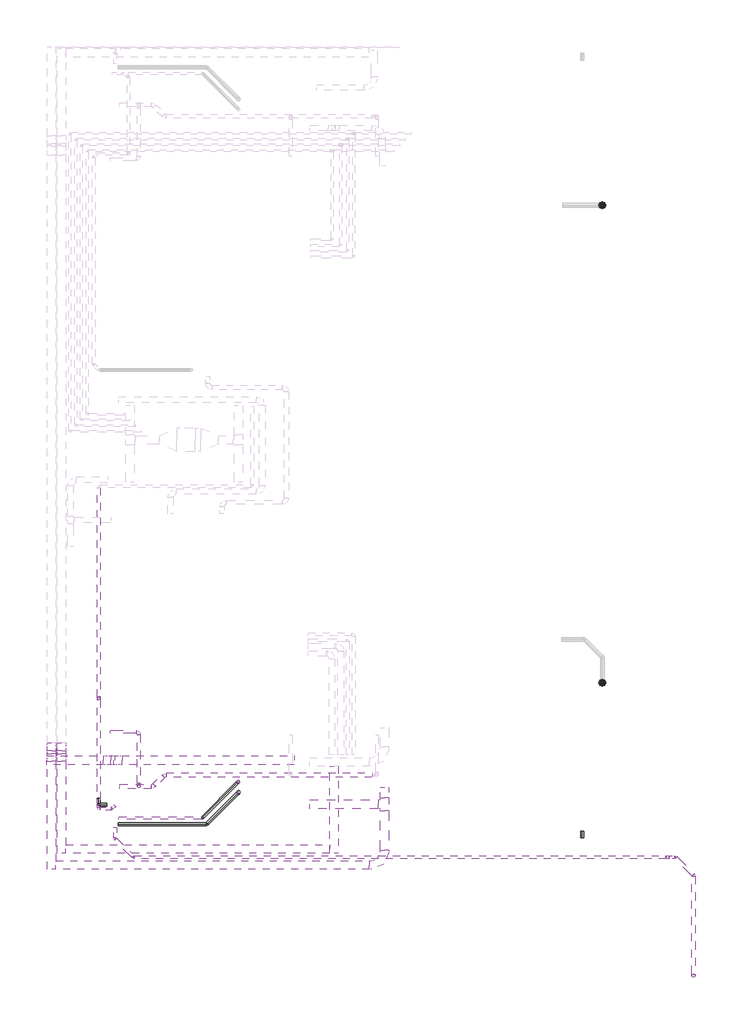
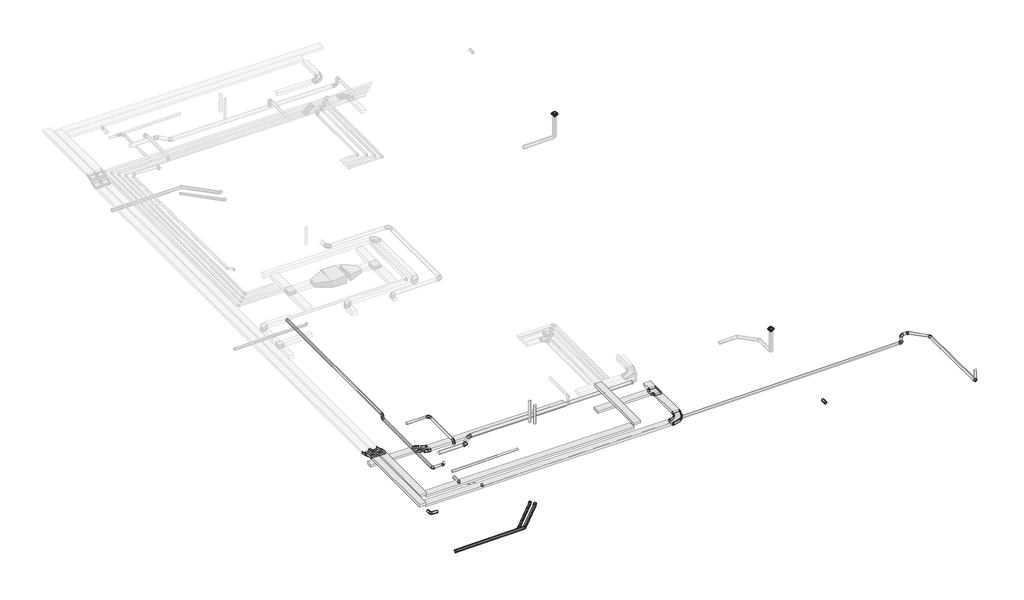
# One storey, part 1 of 4: 22 pipe segments, 16 pipe fittings, 13 cable carrier segments, 8 cable carrier fittings, 6 duct segments, 4 duct fittings, 2 flow terminals.
"""IFC4 building model written with IfcOpenShell, lengths in millimetres."""

from ifc_helpers import new_model, si_unit, point, frame, frame_2d, origin, place, context, project, spatial, polyline, circle_curve, trimmed, segment, composite_curve, outline, extrude, transform, mapped, element, save
from components import el_radio_300_mm_312ed4b1, m_codo_horizontal_de_canal_el_5b0e7b07, m_codo_vertical_exterior_de_canal_el_547dc688, m_codo_vertical_interior_de_canal_el_a775c4ca, m_codo_redondo_ext_1_d_96ea52f9, m_codo_redondo_ext_1_d_5003ae0d, flow_terminal_39898e6f, flow_terminal_561f22d3, pipe_fitting_0b7fd5a4, pipe_fitting_aab77541, pipe_fitting_688cd524, pipe_fitting_d4e63a53, pipe_fitting_0af9fee6, pipe_fitting_39727cd3, pipe_fitting_87aeffad, pipe_fitting_4a6b8cfe

model = new_model("IFC4")

# Units and contexts
model_context = context("Model", 3, world=origin())
ifc_project = project(units=[si_unit("LENGTHUNIT", "METRE", prefix="MILLI")], contexts=[model_context])

# Site, building, storey
site = spatial("IfcSite", under=ifc_project)
building = spatial("IfcBuilding", under=site)
storey = spatial("IfcBuildingStorey", under=building, Name="Nivell 05 P05_PP", Elevation=26160.0)

# Cable carrier fittings
placement = place(None, origin())
el_radio_300_mm_shape = el_radio_300_mm_312ed4b1(model_context)
element("IfcCableCarrierFitting", 1, ObjectType="M_Te horizontal de canal : EL_Radio 300 mm", at=placement, inside=storey, context=model_context, shape_type="MappedRepresentation", body=[
    mapped(el_radio_300_mm_shape, transform((16614.6624278, -16993.7433657, 29324.0212739), x_axis=(0.0, -1.0, 0.0), y_axis=(1.0, 0.0, 0.0), z_axis=(0.0, 0.0, 1.0))),
])
m_codo_horizontal_de_canal_el_shape = m_codo_horizontal_de_canal_el_5b0e7b07(model_context)
element("IfcCableCarrierFitting", 2, ObjectType="M_Codo horizontal de canal : EL", at=placement, inside=storey, context=model_context, shape_type="MappedRepresentation", body=[
    mapped(m_codo_horizontal_de_canal_el_shape, transform((16614.6624278, -19116.2171768, 29324.0212739), x_axis=(1.0, 0.0, 0.0), y_axis=(0.0, 1.0, 0.0), z_axis=(0.0, 0.0, 1.0))),
])
m_codo_vertical_exterior_de_canal_el_shape = m_codo_vertical_exterior_de_canal_el_547dc688(model_context)
element("IfcCableCarrierFitting", 3, ObjectType="M_Codo vertical exterior de canal : EL", at=placement, inside=storey, context=model_context, shape_type="MappedRepresentation", body=[
    mapped(m_codo_vertical_exterior_de_canal_el_shape, transform((5357.0671065, -15355.3999814, 29410.0), x_axis=(0.0, 1.0, 0.0), y_axis=(0.0, 0.0, -1.0), z_axis=(-1.0, 0.0, 0.0))),
])
element("IfcCableCarrierFitting", 4, ObjectType="M_Codo vertical exterior de canal : EL", at=placement, inside=storey, context=model_context, shape_type="MappedRepresentation", body=[
    mapped(m_codo_vertical_exterior_de_canal_el_shape, transform((5008.2381883, -15355.3999814, 29410.0), x_axis=(0.0, -0.9238795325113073, 0.38268343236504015), y_axis=(0.0, -0.38268343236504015, -0.9238795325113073), z_axis=(1.0, 0.0, 0.0))),
])
element("IfcCableCarrierFitting", 5, ObjectType="M_Codo vertical exterior de canal : EL", at=placement, inside=storey, context=model_context, shape_type="MappedRepresentation", body=[
    mapped(m_codo_vertical_exterior_de_canal_el_shape, transform((6956.7785309, -15459.2996833, 29060.0), x_axis=(1.0, 0.0, 0.0), y_axis=(0.0, 0.0, -1.0), z_axis=(0.0, 1.0, 0.0))),
])
m_codo_vertical_interior_de_canal_el_shape = m_codo_vertical_interior_de_canal_el_a775c4ca(model_context)
element("IfcCableCarrierFitting", 6, ObjectType="M_Codo vertical interior de canal : EL", at=placement, inside=storey, context=model_context, shape_type="MappedRepresentation", body=[
    mapped(m_codo_vertical_interior_de_canal_el_shape, transform((5357.0671065, -14993.267947, 29260.0), x_axis=(0.0, 0.9238795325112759, -0.38268343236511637), y_axis=(0.0, 0.38268343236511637, 0.9238795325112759), z_axis=(1.0, 0.0, 0.0))),
])
element("IfcCableCarrierFitting", 7, ObjectType="M_Codo vertical interior de canal : EL", at=placement, inside=storey, context=model_context, shape_type="MappedRepresentation", body=[
    mapped(m_codo_vertical_interior_de_canal_el_shape, transform((5008.2381883, -14993.267947, 29260.0), x_axis=(0.0, -1.0, 0.0), y_axis=(0.0, 0.0, 1.0), z_axis=(-1.0, 0.0, 0.0))),
])
element("IfcCableCarrierFitting", 8, ObjectType="M_Codo vertical interior de canal : EL", at=placement, inside=storey, context=model_context, shape_type="MappedRepresentation", body=[
    mapped(m_codo_vertical_interior_de_canal_el_shape, transform((7318.9105653, -15459.2996833, 28910.0), x_axis=(0.9238795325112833, 0.0, -0.38268343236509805), y_axis=(0.38268343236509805, 0.0, 0.9238795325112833), z_axis=(0.0, -1.0, 0.0))),
])

# Cable carrier segments
element("IfcCableCarrierSegment", 9, ObjectType="EL", at=placement, inside=storey, context=model_context, shape_type="SweptSolid", body=[
    extrude(outline(polyline([(16464.6624278, -17219.7433657), (16764.6624278, -17219.7433657), (16764.6624278, -18591.2171768), (16464.6624278, -18591.2171768), (16464.6624278, -17219.7433657)])), frame((0.0, 0.0, 29274.0212739), z_axis=(0.0, 0.0, 1.0), x_axis=(1.0, 0.0, 0.0)), (0.0, 0.0, 1.0), 100.0),
])
element("IfcCableCarrierSegment", 10, ObjectType="EL", at=placement, inside=storey, context=model_context, shape_type="SweptSolid", body=[
    extrude(outline(polyline([(16089.6624278, -18966.2171768), (16089.6624278, -19266.2171768), (5158.2381883, -19266.2171768), (5158.2381883, -18966.2171768), (16089.6624278, -18966.2171768)])), frame((0.0, 0.0, 29274.0212739), z_axis=(0.0, 0.0, 1.0), x_axis=(1.0, 0.0, 0.0)), (0.0, 0.0, 1.0), 100.0),
])
element("IfcCableCarrierSegment", 11, ObjectType="EL", at=placement, inside=storey, context=model_context, shape_type="SweptSolid", body=[
    extrude(outline(polyline([(16464.6624278, -16393.7433657), (16764.6624278, -16393.7433657), (16764.6624278, -16767.7433657), (16464.6624278, -16767.7433657), (16464.6624278, -16393.7433657)])), frame((0.0, 0.0, 29274.0212739), z_axis=(0.0, 0.0, 1.0), x_axis=(1.0, 0.0, 0.0)), (0.0, 0.0, 1.0), 100.0),
])
element("IfcCableCarrierSegment", 12, ObjectType="EL", at=placement, inside=storey, context=model_context, shape_type="SweptSolid", body=[
    extrude(outline(polyline([(16388.6624278, -16843.7433657), (16388.6624278, -17143.7433657), (14011.0671065, -17143.7433657), (14011.0671065, -16843.7433657), (16388.6624278, -16843.7433657)])), frame((0.0, 0.0, 29274.0212739), z_axis=(0.0, 0.0, 1.0), x_axis=(1.0, 0.0, 0.0)), (0.0, 0.0, 1.0), 100.0),
])
element("IfcCableCarrierSegment", 13, ObjectType="EL", at=placement, inside=storey, context=model_context, shape_type="SweptSolid", body=[
    extrude(outline(polyline([(6812.1592023, -15309.2996833), (6812.1592023, -15609.2996833), (4831.7785309, -15609.2996833), (4831.7785309, -15309.2996833), (6812.1592023, -15309.2996833)])), frame((0.0, 0.0, 29010.0), z_axis=(0.0, 0.0, 1.0), x_axis=(1.0, 0.0, 0.0)), (0.0, 0.0, 1.0), 100.0),
])
element("IfcCableCarrierSegment", 14, ObjectType="EL", at=placement, inside=storey, context=model_context, shape_type="SweptSolid", body=[
    extrude(outline(polyline([(14707.0671065, -15671.1304394), (15007.0671065, -15671.1304394), (15007.0671065, -18700.3999814), (14707.0671065, -18700.3999814), (14707.0671065, -15671.1304394)])), frame((0.0, 0.0, 29410.0), z_axis=(0.0, 0.0, 1.0), x_axis=(1.0, 0.0, 0.0)), (0.0, 0.0, 1.0), 100.0),
])
element("IfcCableCarrierSegment", 15, ObjectType="EL", at=placement, inside=storey, context=model_context, shape_type="SweptSolid", body=[
    extrude(outline(polyline([(14707.0671065, -18400.3999814), (14707.0671065, -18700.3999814), (5507.0671065, -18700.3999814), (5507.0671065, -18400.3999814), (14707.0671065, -18400.3999814)])), frame((0.0, 0.0, 29241.5185208), z_axis=(0.0, 0.0, 1.0), x_axis=(1.0, 0.0, 0.0)), (0.0, 0.0, 1.0), 100.0),
])
element("IfcCableCarrierSegment", 16, ObjectType="EL", at=placement, inside=storey, context=model_context, shape_type="SweptSolid", body=[
    extrude(outline(polyline([(0.0, -300.0), (0.0, 0.0), (102.7302323, 0.0), (102.7302323, -300.0), (0.0, -300.0)])), frame((5207.0671065, -15240.9233153, 29308.4626023), z_axis=(0.0, 0.38268343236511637, 0.9238795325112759), x_axis=(0.0, 0.9238795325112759, -0.38268343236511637)), (0.0, 0.0, 1.0), 100.0),
])
element("IfcCableCarrierSegment", 17, ObjectType="EL", at=placement, inside=storey, context=model_context, shape_type="SweptSolid", body=[
    extrude(outline(polyline([(0.0, -300.0), (0.0, 0.0), (102.7302323, 0.0), (102.7302323, -300.0), (0.0, -300.0)])), frame((5158.2381883, -15146.0129563, 29269.1494444), z_axis=(0.0, 0.3826834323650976, 0.9238795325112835), x_axis=(0.0, -0.9238795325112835, 0.3826834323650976)), (0.0, 0.0, 1.0), 100.0),
])
element("IfcCableCarrierSegment", 18, ObjectType="EL", at=placement, inside=storey, context=model_context, shape_type="SweptSolid", body=[
    extrude(outline(polyline([(4858.2381883, -15500.01931), (5158.2381883, -15500.01931), (5158.2381883, -19266.2171768), (4858.2381883, -19266.2171768), (4858.2381883, -15500.01931)])), frame((0.0, 0.0, 29360.0), z_axis=(0.0, 0.0, 1.0), x_axis=(1.0, 0.0, 0.0)), (0.0, 0.0, 1.0), 100.0),
])
element("IfcCableCarrierSegment", 19, ObjectType="EL", at=placement, inside=storey, context=model_context, shape_type="SweptSolid", body=[
    extrude(outline(polyline([(5207.0671065, -15500.01931), (5507.0671065, -15500.01931), (5507.0671065, -18700.3999814), (5207.0671065, -18700.3999814), (5207.0671065, -15500.01931)])), frame((0.0, 0.0, 29360.0), z_axis=(0.0, 0.0, 1.0), x_axis=(1.0, 0.0, 0.0)), (0.0, 0.0, 1.0), 100.0),
])
element("IfcCableCarrierSegment", 20, ObjectType="EL", at=placement, inside=storey, context=model_context, shape_type="SweptSolid", body=[
    extrude(outline(polyline([(7463.5298938, -15609.2996833), (7463.5298938, -15309.2996833), (13469.9876148, -15309.2996833), (13469.9876148, -15609.2996833), (7463.5298938, -15609.2996833)])), frame((0.0, 0.0, 28860.0), z_axis=(0.0, 0.0, 1.0), x_axis=(1.0, 0.0, 0.0)), (0.0, 0.0, 1.0), 100.0),
])
element("IfcCableCarrierSegment", 21, ObjectType="EL", at=placement, inside=storey, context=model_context, shape_type="SweptSolid", body=[
    extrude(outline(polyline([(0.0, -300.0), (0.0, 0.0), (102.7302323, 0.0), (102.7302323, -300.0), (0.0, -300.0)])), frame((7071.255197, -15309.2996833, 28958.4626023), z_axis=(0.38268343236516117, 0.0, 0.9238795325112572), x_axis=(0.9238795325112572, 0.0, -0.38268343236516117)), (0.0, 0.0, 1.0), 100.0),
])

# Duct fittings
m_codo_redondo_ext_1_d_shape = m_codo_redondo_ext_1_d_96ea52f9(model_context)
element("IfcDuctFitting", 22, ObjectType="M_Codo redondo : EXT_1 D", at=placement, inside=storey, context=model_context, shape_type="MappedRepresentation", body=[
    mapped(m_codo_redondo_ext_1_d_shape, transform((8050.5896993, -14471.4839002, 29610.0), x_axis=(1.0, 0.0, 0.0), y_axis=(0.0, 1.0, 0.0), z_axis=(0.0, 0.0, 1.0))),
])
element("IfcDuctFitting", 23, ObjectType="M_Codo redondo : EXT_1 D", at=placement, inside=storey, context=model_context, shape_type="MappedRepresentation", body=[
    mapped(m_codo_redondo_ext_1_d_shape, transform((8050.5896993, -16369.0292533, 29610.0), x_axis=(0.0, -1.0, 0.0), y_axis=(0.0, 0.0, 1.0), z_axis=(-1.0, 0.0, 0.0))),
])
m_codo_redondo_ext_1_d_2_shape = m_codo_redondo_ext_1_d_5003ae0d(model_context)
element("IfcDuctFitting", 24, ObjectType="M_Codo redondo : EXT_1 D", at=placement, inside=storey, context=model_context, shape_type="MappedRepresentation", body=[
    mapped(m_codo_redondo_ext_1_d_2_shape, transform((8950.5896993, -15972.9719502, 29265.0), x_axis=(0.7071067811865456, 0.7071067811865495, 0.0), y_axis=(-0.7071067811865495, 0.7071067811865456, 0.0), z_axis=(0.0, 0.0, 1.0))),
])
element("IfcDuctFitting", 25, ObjectType="M_Codo redondo : EXT_1 D", at=placement, inside=storey, context=model_context, shape_type="MappedRepresentation", body=[
    mapped(m_codo_redondo_ext_1_d_2_shape, transform((8550.5886625, -16372.972987, 29265.0), x_axis=(-0.7071067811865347, -0.7071067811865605, 0.0), y_axis=(0.7071067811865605, -0.7071067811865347, 0.0), z_axis=(0.0, 0.0, 1.0))),
])

# Duct segments
element("IfcDuctSegment", 26, ObjectType="EXT_Acer Galvanitzat - Rígid", at=placement, inside=storey, context=model_context, shape_type="SweptSolid", body=[
    extrude(outline(composite_curve([segment(trimmed(circle_curve(frame_2d((-15972.9719502, 29265.0)), 75.0), [point((-15897.9719502, 29265.0))], [point((-15972.9719502, 29190.0))], False, "CARTESIAN"), True, "CONTINUOUS"), segment(trimmed(circle_curve(frame_2d((-15972.9719502, 29265.0)), 75.0), [point((-15972.9719502, 29190.0))], [point((-16047.9719502, 29265.0))], False, "CARTESIAN"), True, "CONTINUOUS"), segment(trimmed(circle_curve(frame_2d((-15972.9719502, 29265.0)), 75.0), [point((-16047.9719502, 29265.0))], [point((-15972.9719502, 29340.0))], False, "CARTESIAN"), True, "CONTINUOUS"), segment(trimmed(circle_curve(frame_2d((-15972.9719502, 29265.0)), 75.0), [point((-15972.9719502, 29340.0))], [point((-15897.9719502, 29265.0))], False, "CARTESIAN"), True, "CONTINUOUS")], self_intersect=False)), frame((9012.7217336, 0.0, 0.0), z_axis=(1.0, 0.0, 0.0), x_axis=(0.0, 1.0, 0.0)), (0.0, 0.0, 1.0), 7177.5126266),
])
element("IfcDuctSegment", 27, ObjectType="EXT_Acer Galvanitzat - Rígid", at=placement, inside=storey, context=model_context, shape_type="SweptSolid", body=[
    extrude(outline(composite_curve([segment(trimmed(circle_curve(frame_2d((-14471.4839002, 29610.0)), 50.0), [point((-14521.4839002, 29610.0))], [point((-14471.4839002, 29660.0))], False, "CARTESIAN"), True, "CONTINUOUS"), segment(trimmed(circle_curve(frame_2d((-14471.4839002, 29610.0)), 50.0), [point((-14471.4839002, 29660.0))], [point((-14421.4839002, 29610.0))], False, "CARTESIAN"), True, "CONTINUOUS"), segment(trimmed(circle_curve(frame_2d((-14471.4839002, 29610.0)), 50.0), [point((-14421.4839002, 29610.0))], [point((-14471.4839002, 29560.0))], False, "CARTESIAN"), True, "CONTINUOUS"), segment(trimmed(circle_curve(frame_2d((-14471.4839002, 29610.0)), 50.0), [point((-14471.4839002, 29560.0))], [point((-14521.4839002, 29610.0))], False, "CARTESIAN"), True, "CONTINUOUS")], self_intersect=False)), frame((7050.5896993, 0.0, 0.0), z_axis=(1.0, 0.0, 0.0), x_axis=(0.0, 1.0, 0.0)), (0.0, 0.0, 1.0), 900.0),
])
element("IfcDuctSegment", 28, ObjectType="EXT_Acer Galvanitzat - Rígid", at=placement, inside=storey, context=model_context, shape_type="SweptSolid", body=[
    extrude(outline(composite_curve([segment(trimmed(circle_curve(frame_2d((29610.0, 8050.5896993)), 50.0), [point((29610.0, 8100.5896993))], [point((29660.0, 8050.5896993))], False, "CARTESIAN"), True, "CONTINUOUS"), segment(trimmed(circle_curve(frame_2d((29610.0, 8050.5896993)), 50.0), [point((29660.0, 8050.5896993))], [point((29610.0, 8000.5896993))], False, "CARTESIAN"), True, "CONTINUOUS"), segment(trimmed(circle_curve(frame_2d((29610.0, 8050.5896993)), 50.0), [point((29610.0, 8000.5896993))], [point((29560.0, 8050.5896993))], False, "CARTESIAN"), True, "CONTINUOUS"), segment(trimmed(circle_curve(frame_2d((29610.0, 8050.5896993)), 50.0), [point((29560.0, 8050.5896993))], [point((29610.0, 8100.5896993))], False, "CARTESIAN"), True, "CONTINUOUS")], self_intersect=False)), frame((0.0, -16269.0292533, 0.0), z_axis=(0.0, 1.0, 0.0), x_axis=(0.0, 0.0, 1.0)), (0.0, 0.0, 1.0), 1697.545353),
])
element("IfcDuctSegment", 29, ObjectType="EXT_Acer Galvanitzat - Rígid", at=placement, inside=storey, context=model_context, shape_type="SweptSolid", body=[
    extrude(outline(composite_curve([segment(trimmed(circle_curve(frame_2d((8050.5896993, -16369.0292533)), 50.0), [point((8000.5896993, -16369.0292533))], [point((8050.5896993, -16319.0292533))], False, "CARTESIAN"), True, "CONTINUOUS"), segment(trimmed(circle_curve(frame_2d((8050.5896993, -16369.0292533)), 50.0), [point((8050.5896993, -16319.0292533))], [point((8100.5896993, -16369.0292533))], False, "CARTESIAN"), True, "CONTINUOUS"), segment(trimmed(circle_curve(frame_2d((8050.5896993, -16369.0292533)), 50.0), [point((8100.5896993, -16369.0292533))], [point((8050.5896993, -16419.0292533))], False, "CARTESIAN"), True, "CONTINUOUS"), segment(trimmed(circle_curve(frame_2d((8050.5896993, -16369.0292533)), 50.0), [point((8050.5896993, -16419.0292533))], [point((8000.5896993, -16369.0292533))], False, "CARTESIAN"), True, "CONTINUOUS")], self_intersect=False)), frame((0.0, 0.0, 29441.6), z_axis=(0.0, 0.0, 1.0), x_axis=(1.0, 0.0, 0.0)), (0.0, 0.0, 1.0), 68.4),
])
element("IfcDuctSegment", 30, ObjectType="EXT_Acer Galvanitzat - Rígid", at=placement, inside=storey, context=model_context, shape_type="SweptSolid", body=[
    extrude(outline(composite_curve([segment(trimmed(circle_curve(frame_2d((0.0, -75.0)), 75.0), [point((-75.0, -75.0))], [point((0.0, 0.0))], False, "CARTESIAN"), True, "CONTINUOUS"), segment(trimmed(circle_curve(frame_2d((0.0, -75.0)), 75.0), [point((0.0, 0.0))], [point((75.0, -75.0))], False, "CARTESIAN"), True, "CONTINUOUS"), segment(trimmed(circle_curve(frame_2d((0.0, -75.0)), 75.0), [point((75.0, -75.0))], [point((0.0, -150.0))], False, "CARTESIAN"), True, "CONTINUOUS"), segment(trimmed(circle_curve(frame_2d((0.0, -75.0)), 75.0), [point((0.0, -150.0))], [point((-75.0, -75.0))], False, "CARTESIAN"), True, "CONTINUOUS")], self_intersect=False)), frame((8594.5226453, -16329.0390042, 29190.0), z_axis=(0.7071067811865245, 0.7071067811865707, 0.0), x_axis=(0.7071067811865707, -0.7071067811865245, 0.0)), (0.0, 0.0, 1.0), 441.4228225),
])
element("IfcDuctSegment", 31, ObjectType="EXT_Acer Galvanitzat - Rígid", at=placement, inside=storey, context=model_context, shape_type="SweptSolid", body=[
    extrude(outline(composite_curve([segment(trimmed(circle_curve(frame_2d((-16372.972987, 29265.0)), 75.0), [point((-16297.972987, 29265.0))], [point((-16372.972987, 29190.0))], False, "CARTESIAN"), True, "CONTINUOUS"), segment(trimmed(circle_curve(frame_2d((-16372.972987, 29265.0)), 75.0), [point((-16372.972987, 29190.0))], [point((-16447.972987, 29265.0))], False, "CARTESIAN"), True, "CONTINUOUS"), segment(trimmed(circle_curve(frame_2d((-16372.972987, 29265.0)), 75.0), [point((-16447.972987, 29265.0))], [point((-16372.972987, 29340.0))], False, "CARTESIAN"), True, "CONTINUOUS"), segment(trimmed(circle_curve(frame_2d((-16372.972987, 29265.0)), 75.0), [point((-16372.972987, 29340.0))], [point((-16297.972987, 29265.0))], False, "CARTESIAN"), True, "CONTINUOUS")], self_intersect=False)), frame((7390.5886625, 0.0, 0.0), z_axis=(1.0, 0.0, 0.0), x_axis=(0.0, 1.0, 0.0)), (0.0, 0.0, 1.0), 1097.8679656),
])

# Flow terminals
flow_terminal_shape = flow_terminal_39898e6f(model_context)
element("IfcFlowTerminal", 32, ObjectType="ARC_PF_desaigua coberta : Diámetro salida 70mm", at=placement, inside=storey, context=model_context, shape_type="MappedRepresentation", body=[
    mapped(flow_terminal_shape, transform((24213.263137, -12759.2418782, 26908.0), x_axis=(1.0, 0.0, 0.0), y_axis=(0.0, 1.0, 0.0), z_axis=(0.0, 0.0, 1.0))),
])
flow_terminal_2_shape = flow_terminal_561f22d3(model_context)
element("IfcFlowTerminal", 33, ObjectType="ARC_PF_desaigua coberta : Diámetro salida 70mm", at=placement, inside=storey, context=model_context, shape_type="MappedRepresentation", body=[
    mapped(flow_terminal_2_shape, transform((24213.2535279, 3889.7377857, 26908.0), x_axis=(1.0, 0.0, 0.0), y_axis=(0.0, 1.0, 0.0), z_axis=(0.0, 0.0, 1.0))),
])

# Pipe fittings
pipe_fitting_shape = pipe_fitting_0b7fd5a4(model_context)
element("IfcPipeFitting", 34, ObjectType="M_Codo - Genérico : Estándar", at=placement, inside=storey, context=model_context, shape_type="MappedRepresentation", body=[
    mapped(pipe_fitting_shape, transform((27389.4059114, -19474.4581925, 29624.9769213), x_axis=(0.0, 0.9999500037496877, -0.009999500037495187), y_axis=(-0.9999914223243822, -4.141685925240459e-05, -0.004141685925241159), z_axis=(-0.004141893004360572, 0.009999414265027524, 0.9999414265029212))),
])
element("IfcPipeFitting", 35, ObjectType="M_Codo - Genérico : Estándar", at=placement, inside=storey, context=model_context, shape_type="MappedRepresentation", body=[
    mapped(pipe_fitting_shape, transform((7870.0068596, -18840.3956727, 29076.0671248), x_axis=(0.7070714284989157, -0.7070714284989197, 0.009999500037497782), y_axis=(0.7070714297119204, 0.7071300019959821, 0.004141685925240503), z_axis=(-0.009999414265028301, 0.004141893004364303, 0.9999414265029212))),
])
element("IfcPipeFitting", 36, ObjectType="M_Codo - Genérico : Estándar", at=placement, inside=storey, context=model_context, shape_type="MappedRepresentation", body=[
    mapped(pipe_fitting_shape, transform((7222.8096734, -18193.1973994, 29066.9143667), x_axis=(0.0, -0.9999500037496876, 0.009999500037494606), y_axis=(0.9999914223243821, 4.141685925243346e-05, 0.004141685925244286), z_axis=(-0.004141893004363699, 0.009999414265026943, 0.9999414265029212))),
])
element("IfcPipeFitting", 37, ObjectType="M_Codo - Genérico : Estándar", at=placement, inside=storey, context=model_context, shape_type="MappedRepresentation", body=[
    mapped(pipe_fitting_shape, transform((10418.5757792, -17686.9795368, 25494.2175715), x_axis=(0.9999500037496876, 0.0, 0.009999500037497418), y_axis=(-4.141685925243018e-05, 0.9999914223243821, 0.004141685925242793), z_axis=(-0.009999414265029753, -0.004141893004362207, 0.9999414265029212))),
])
pipe_fitting_2_shape = pipe_fitting_aab77541(model_context)
element("IfcPipeFitting", 38, ObjectType="M_Codo - Genérico : Estándar", at=placement, inside=storey, context=model_context, shape_type="MappedRepresentation", body=[
    mapped(pipe_fitting_2_shape, transform((27389.4059114, -22976.7660651, 29660.0), x_axis=(0.0, 0.0, -1.0), y_axis=(0.0, 1.0, 0.0), z_axis=(1.0, 0.0, 0.0))),
])
element("IfcPipeFitting", 39, ObjectType="M_Codo - Genérico : Estándar", at=placement, inside=storey, context=model_context, shape_type="MappedRepresentation", body=[
    mapped(pipe_fitting_2_shape, transform((26487.5503889, -18840.3956727, 29262.2425601), x_axis=(0.9999500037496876, 0.0, 0.00999950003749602), y_axis=(-0.00999950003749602, 0.0, 0.9999500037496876), z_axis=(0.0, -1.0, 0.0))),
])
element("IfcPipeFitting", 40, ObjectType="M_Codo - Genérico : Estándar", at=placement, inside=storey, context=model_context, shape_type="MappedRepresentation", body=[
    mapped(pipe_fitting_2_shape, transform((11534.5619983, -16570.9933177, 25510.0), x_axis=(0.7070714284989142, 0.7070714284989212, 0.00999950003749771), y_axis=(-0.007070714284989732, -0.007070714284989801, 0.9999500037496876), z_axis=(0.707106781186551, -0.707106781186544, 0.0))),
])
pipe_fitting_3_shape = pipe_fitting_688cd524(model_context)
element("IfcPipeFitting", 41, ObjectType="M_Codo - Genérico : Estándar", at=placement, inside=storey, context=model_context, shape_type="MappedRepresentation", body=[
    mapped(pipe_fitting_3_shape, transform((11520.8342792, -16208.2069022, 25369.1205236), x_axis=(0.7070714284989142, 0.7070714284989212, 0.00999950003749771), y_axis=(-0.007070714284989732, -0.007070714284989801, 0.9999500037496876), z_axis=(0.707106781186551, -0.707106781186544, 0.0))),
])
pipe_fitting_4_shape = pipe_fitting_d4e63a53(model_context)
element("IfcPipeFitting", 42, ObjectType="M_Codo - Genérico : Estándar", at=placement, inside=storey, context=model_context, shape_type="MappedRepresentation", body=[
    mapped(pipe_fitting_4_shape, transform((10258.5698208, -17470.4705374, 25351.2694142), x_axis=(0.9999500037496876, 0.0, 0.009999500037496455), y_axis=(-4.141528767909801e-05, 0.9999914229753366, 0.0041415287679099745), z_axis=(-0.00999941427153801, -0.004141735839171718, 0.9999414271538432))),
])
pipe_fitting_5_shape = pipe_fitting_0af9fee6(model_context)
element("IfcPipeFitting", 43, ObjectType="M_Codo - Genérico : Estándar", at=placement, inside=storey, context=model_context, shape_type="MappedRepresentation", body=[
    mapped(pipe_fitting_5_shape, transform((26755.352721, -18840.4049607, 29616.0030113), x_axis=(-0.7070713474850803, 0.7070713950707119, -0.010007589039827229), y_axis=(-0.7070715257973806, -0.7071299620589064, -0.0041320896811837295), z_axis=(-0.009998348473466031, 0.004154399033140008, 0.9999413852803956))),
])
pipe_fitting_6_shape = pipe_fitting_39727cd3(model_context)
element("IfcPipeFitting", 44, ObjectType="M_Codo - Genérico : Estándar", at=placement, inside=storey, context=model_context, shape_type="MappedRepresentation", body=[
    mapped(pipe_fitting_6_shape, transform((26487.5503889, -18840.4049607, 29613.3252733), x_axis=(-0.9999500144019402, 0.0, -0.009998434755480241), y_axis=(0.009998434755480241, 0.0, -0.9999500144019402), z_axis=(0.0, -1.0, 0.0))),
])
pipe_fitting_7_shape = pipe_fitting_87aeffad(model_context)
element("IfcPipeFitting", 45, ObjectType="M_Codo - Genérico : Estándar", at=placement, inside=storey, context=model_context, shape_type="MappedRepresentation", body=[
    mapped(pipe_fitting_7_shape, transform((6656.4795907, -17006.4845942, 27060.0), x_axis=(0.0, -1.0, 0.0), y_axis=(1.0, 0.0, 0.0), z_axis=(0.0, 0.0, 1.0))),
])
element("IfcPipeFitting", 46, ObjectType="M_Codo - Genérico : Estándar", at=placement, inside=storey, context=model_context, shape_type="MappedRepresentation", body=[
    mapped(pipe_fitting_7_shape, transform((6653.8941113, -17152.8731458, 29289.2), x_axis=(0.0, -1.0, 0.0), y_axis=(1.0, 0.0, 0.0), z_axis=(0.0, 0.0, 1.0))),
])
element("IfcPipeFitting", 47, ObjectType="M_Codo - Genérico : Estándar", at=placement, inside=storey, context=model_context, shape_type="MappedRepresentation", body=[
    mapped(pipe_fitting_7_shape, transform((6653.8941113, -13303.5043958, 29460.8), x_axis=(0.0, -1.0, 0.0), y_axis=(0.0, 0.0, -1.0), z_axis=(1.0, 0.0, 0.0))),
])
element("IfcPipeFitting", 48, ObjectType="M_Codo - Genérico : Estándar", at=placement, inside=storey, context=model_context, shape_type="MappedRepresentation", body=[
    mapped(pipe_fitting_7_shape, transform((6653.8941113, -13303.5043958, 29289.2), x_axis=(0.0, 1.0, 0.0), y_axis=(0.0, 0.0, 1.0), z_axis=(1.0, 0.0, 0.0))),
])
pipe_fitting_8_shape = pipe_fitting_4a6b8cfe(model_context)
element("IfcPipeFitting", 49, ObjectType="M_Codo - Genérico : Estándar", at=placement, inside=storey, context=model_context, shape_type="MappedRepresentation", body=[
    mapped(pipe_fitting_8_shape, transform((7103.8941113, -17152.8731458, 29289.2), x_axis=(1.0, 0.0, 0.0), y_axis=(0.0, 1.0, 0.0), z_axis=(0.0, 0.0, 1.0))),
])

# Pipe segments
element("IfcPipeSegment", 50, ObjectType="PVC_Baixant", at=placement, inside=storey, context=model_context, shape_type="SweptSolid", body=[
    extrude(outline(composite_curve([segment(trimmed(circle_curve(frame_2d((11534.5619983, -16570.9933177)), 55.0), [point((11479.5619983, -16570.9933177))], [point((11534.5619983, -16515.9933177))], False, "CARTESIAN"), True, "CONTINUOUS"), segment(trimmed(circle_curve(frame_2d((11534.5619983, -16570.9933177)), 55.0), [point((11534.5619983, -16515.9933177))], [point((11589.5619983, -16570.9933177))], False, "CARTESIAN"), True, "CONTINUOUS"), segment(trimmed(circle_curve(frame_2d((11534.5619983, -16570.9933177)), 55.0), [point((11589.5619983, -16570.9933177))], [point((11534.5619983, -16625.9933177))], False, "CARTESIAN"), True, "CONTINUOUS"), segment(trimmed(circle_curve(frame_2d((11534.5619983, -16570.9933177)), 55.0), [point((11534.5619983, -16625.9933177))], [point((11479.5619983, -16570.9933177))], False, "CARTESIAN"), True, "CONTINUOUS")], self_intersect=False)), frame((0.0, 0.0, 29322.3112718), z_axis=(0.0, 0.0, 1.0), x_axis=(1.0, 0.0, 0.0)), (0.0, 0.0, 1.0), 837.6887282),
])
element("IfcPipeSegment", 51, ObjectType="PVC_Baixant", at=placement, inside=storey, context=model_context, shape_type="SweptSolid", body=[
    extrude(outline(composite_curve([segment(trimmed(circle_curve(frame_2d((0.0, 45.0)), 45.0), [point((-45.0, 45.0))], [point((0.0, 90.0))], False, "CARTESIAN"), True, "CONTINUOUS"), segment(trimmed(circle_curve(frame_2d((0.0, 45.0)), 45.0), [point((0.0, 90.0))], [point((45.0, 45.0))], False, "CARTESIAN"), True, "CONTINUOUS"), segment(trimmed(circle_curve(frame_2d((0.0, 45.0)), 45.0), [point((45.0, 45.0))], [point((0.0, 0.0))], False, "CARTESIAN"), True, "CONTINUOUS"), segment(trimmed(circle_curve(frame_2d((0.0, 45.0)), 45.0), [point((0.0, 0.0))], [point((-45.0, 45.0))], False, "CARTESIAN"), True, "CONTINUOUS")], self_intersect=False)), frame((11520.8342792, -16253.2069022, 29170.9866789), z_axis=(2.535683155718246e-05, -1.9776222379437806e-06, 0.9999999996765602), x_axis=(0.9999999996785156, 5.01430008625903e-11, -2.535683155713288e-05)), (0.0, 0.0, 1.0), 989.013222),
])
element("IfcPipeSegment", 52, ObjectType="PVC_Baixant", at=placement, inside=storey, context=model_context, shape_type="SweptSolid", body=[
    extrude(outline(composite_curve([segment(trimmed(circle_curve(frame_2d((0.0, -45.0)), 45.0), [point((0.0, 0.0))], [point((44.9999999, -45.0))], False, "CARTESIAN"), True, "CONTINUOUS"), segment(trimmed(circle_curve(frame_2d((0.0, -45.0)), 45.0), [point((44.9999999, -45.0))], [point((0.0, -90.0))], False, "CARTESIAN"), True, "CONTINUOUS"), segment(trimmed(circle_curve(frame_2d((0.0, -45.0)), 45.0), [point((0.0, -90.0))], [point((-45.0, -45.0))], False, "CARTESIAN"), True, "CONTINUOUS"), segment(trimmed(circle_curve(frame_2d((0.0, -45.0)), 45.0), [point((-45.0, -45.0))], [point((0.0, 0.0))], False, "CARTESIAN"), True, "CONTINUOUS")], self_intersect=False)), frame((7341.7462723, -17425.4705374, 29072.1011787), z_axis=(0.9999500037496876, 0.0, 0.009999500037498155), x_axis=(0.009999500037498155, 0.0, -0.9999500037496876)), (0.0, 0.0, 1.0), 2895.2718674),
])
element("IfcPipeSegment", 53, ObjectType="PVC_Baixant", at=placement, inside=storey, context=model_context, shape_type="SweptSolid", body=[
    extrude(outline(composite_curve([segment(trimmed(circle_curve(frame_2d((27389.4059114, -22976.7660651)), 55.0), [point((27334.4059114, -22976.7660651))], [point((27389.4059114, -22921.7660651))], False, "CARTESIAN"), True, "CONTINUOUS"), segment(trimmed(circle_curve(frame_2d((27389.4059114, -22976.7660651)), 55.0), [point((27389.4059114, -22921.7660651))], [point((27444.4059114, -22976.7660651))], False, "CARTESIAN"), True, "CONTINUOUS"), segment(trimmed(circle_curve(frame_2d((27389.4059114, -22976.7660651)), 55.0), [point((27444.4059114, -22976.7660651))], [point((27389.4059114, -23031.7660651))], False, "CARTESIAN"), True, "CONTINUOUS"), segment(trimmed(circle_curve(frame_2d((27389.4059114, -22976.7660651)), 55.0), [point((27389.4059114, -23031.7660651))], [point((27334.4059114, -22976.7660651))], False, "CARTESIAN"), True, "CONTINUOUS")], self_intersect=False)), frame((0.0, 0.0, 29722.3112718), z_axis=(0.0, 0.0, 1.0), x_axis=(1.0, 0.0, 0.0)), (0.0, 0.0, 1.0), 437.6887282),
])
element("IfcPipeSegment", 54, ObjectType="PVC_Baixant", at=placement, inside=storey, context=model_context, shape_type="SweptSolid", body=[
    extrude(outline(composite_curve([segment(trimmed(circle_curve(frame_2d((0.0, -55.0)), 55.0), [point((55.0, -55.0))], [point((0.0, -110.0))], False, "CARTESIAN"), True, "CONTINUOUS"), segment(trimmed(circle_curve(frame_2d((0.0, -55.0)), 55.0), [point((0.0, -110.0))], [point((-55.0, -55.0))], False, "CARTESIAN"), True, "CONTINUOUS"), segment(trimmed(circle_curve(frame_2d((0.0, -55.0)), 55.0), [point((-55.0, -55.0))], [point((0.0, 0.0))], False, "CARTESIAN"), True, "CONTINUOUS"), segment(trimmed(circle_curve(frame_2d((0.0, -55.0)), 55.0), [point((0.0, 0.0))], [point((55.0, -55.0))], False, "CARTESIAN"), True, "CONTINUOUS")], self_intersect=False)), frame((27389.4059114, -19499.9749558, 29680.2348388), z_axis=(0.0, -0.9999500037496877, 0.009999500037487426), x_axis=(1.0, 0.0, 0.0)), (0.0, 0.0, 1.0), 3414.1036727),
])
element("IfcPipeSegment", 55, ObjectType="PVC_Baixant", at=placement, inside=storey, context=model_context, shape_type="SweptSolid", body=[
    extrude(outline(composite_curve([segment(trimmed(circle_curve(frame_2d((0.0, -55.0)), 55.0), [point((54.997246, -54.4496102))], [point((0.5503897, -109.9972461))], False, "CARTESIAN"), True, "CONTINUOUS"), segment(trimmed(circle_curve(frame_2d((0.0, -55.0)), 55.0), [point((0.5503897, -109.9972461))], [point((-54.997246, -55.5503898))], False, "CARTESIAN"), True, "CONTINUOUS"), segment(trimmed(circle_curve(frame_2d((0.0, -55.0)), 55.0), [point((-54.997246, -55.5503898))], [point((-0.5503899, -0.0027539))], False, "CARTESIAN"), True, "CONTINUOUS"), segment(trimmed(circle_curve(frame_2d((0.0, -55.0)), 55.0), [point((-0.5503899, -0.0027539))], [point((54.997246, -54.4496102))], False, "CARTESIAN"), True, "CONTINUOUS")], self_intersect=False)), frame((26773.7846855, -18858.0585576, 29671.2583814), z_axis=(0.7070713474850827, -0.7070713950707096, 0.010007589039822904), x_axis=(0.7071422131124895, 0.7070005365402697, -0.010006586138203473)), (0.0, 0.0, 1.0), 844.5954746),
])
element("IfcPipeSegment", 56, ObjectType="PVC_Baixant", at=placement, inside=storey, context=model_context, shape_type="SweptSolid", body=[
    extrude(outline(composite_curve([segment(trimmed(circle_curve(frame_2d((0.0, -55.0)), 55.0), [point((0.0, 0.0))], [point((55.0, -55.0))], False, "CARTESIAN"), True, "CONTINUOUS"), segment(trimmed(circle_curve(frame_2d((0.0, -55.0)), 55.0), [point((55.0, -55.0))], [point((0.0, -110.0))], False, "CARTESIAN"), True, "CONTINUOUS"), segment(trimmed(circle_curve(frame_2d((0.0, -55.0)), 55.0), [point((0.0, -110.0))], [point((-55.0, -55.0))], False, "CARTESIAN"), True, "CONTINUOUS"), segment(trimmed(circle_curve(frame_2d((0.0, -55.0)), 55.0), [point((-55.0, -55.0))], [point((0.0, 0.0))], False, "CARTESIAN"), True, "CONTINUOUS")], self_intersect=False)), frame((7896.0735954, -18785.3956727, 29076.3277921), z_axis=(0.9999500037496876, 0.0, 0.009999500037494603), x_axis=(0.009999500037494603, 0.0, -0.9999500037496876)), (0.0, 0.0, 1.0), 18530.0950724),
])
element("IfcPipeSegment", 57, ObjectType="PVC_Baixant", at=placement, inside=storey, context=model_context, shape_type="SweptSolid", body=[
    extrude(outline(composite_curve([segment(trimmed(circle_curve(frame_2d((0.0, -55.0)), 55.0), [point((54.9972505, -54.4500559))], [point((0.549944, -109.9972506))], False, "CARTESIAN"), True, "CONTINUOUS"), segment(trimmed(circle_curve(frame_2d((0.0, -55.0)), 55.0), [point((0.549944, -109.9972506))], [point((-54.9972505, -55.549944))], False, "CARTESIAN"), True, "CONTINUOUS"), segment(trimmed(circle_curve(frame_2d((0.0, -55.0)), 55.0), [point((-54.9972505, -55.549944))], [point((-0.5499441, -0.0027495))], False, "CARTESIAN"), True, "CONTINUOUS"), segment(trimmed(circle_curve(frame_2d((0.0, -55.0)), 55.0), [point((-0.5499441, -0.0027495))], [point((54.9972505, -54.4500559))], False, "CARTESIAN"), True, "CONTINUOUS")], self_intersect=False)), frame((7241.2416391, -18210.851626, 29122.1695349), z_axis=(0.7070707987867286, -0.707072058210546, 0.009999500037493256), x_axis=(0.7071427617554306, 0.707000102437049, -0.009998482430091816)), (0.0, 0.0, 1.0), 863.1854914),
])
element("IfcPipeSegment", 58, ObjectType="PVC_Baixant", at=placement, inside=storey, context=model_context, shape_type="SweptSolid", body=[
    extrude(outline(composite_curve([segment(trimmed(circle_curve(frame_2d((0.0, -55.0)), 55.0), [point((0.0, 0.0))], [point((55.0, -55.0))], False, "CARTESIAN"), True, "CONTINUOUS"), segment(trimmed(circle_curve(frame_2d((0.0, -55.0)), 55.0), [point((55.0, -55.0))], [point((0.0, -110.0))], False, "CARTESIAN"), True, "CONTINUOUS"), segment(trimmed(circle_curve(frame_2d((0.0, -55.0)), 55.0), [point((0.0, -110.0))], [point((-55.0, -55.0))], False, "CARTESIAN"), True, "CONTINUOUS"), segment(trimmed(circle_curve(frame_2d((0.0, -55.0)), 55.0), [point((-55.0, -55.0))], [point((0.0, 0.0))], False, "CARTESIAN"), True, "CONTINUOUS")], self_intersect=False)), frame((26549.8586125, -18785.4049607, 29613.9482891), z_axis=(0.9999500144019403, 0.0, 0.009998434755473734), x_axis=(0.009998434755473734, 0.0, -0.9999500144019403)), (0.0, 0.0, 1.0), 179.4363416),
])
element("IfcPipeSegment", 59, ObjectType="PVC_Baixant", at=placement, inside=storey, context=model_context, shape_type="SweptSolid", body=[
    extrude(outline(composite_curve([segment(trimmed(circle_curve(frame_2d((0.0, 54.9999999)), 55.0), [point((-55.0, 54.9999999))], [point((0.0, 110.0))], False, "CARTESIAN"), True, "CONTINUOUS"), segment(trimmed(circle_curve(frame_2d((0.0, 54.9999999)), 55.0), [point((0.0, 110.0))], [point((55.0, 54.9999999))], False, "CARTESIAN"), True, "CONTINUOUS"), segment(trimmed(circle_curve(frame_2d((0.0, 54.9999999)), 55.0), [point((55.0, 54.9999999))], [point((0.0, 0.0))], False, "CARTESIAN"), True, "CONTINUOUS"), segment(trimmed(circle_curve(frame_2d((0.0, 54.9999999)), 55.0), [point((0.0, 0.0))], [point((-55.0, 54.9999999))], False, "CARTESIAN"), True, "CONTINUOUS")], self_intersect=False)), frame((26487.5503889, -18895.3956726, 29324.5515761), z_axis=(0.0, -4.1014092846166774e-05, 0.9999999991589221), x_axis=(1.0, 0.0, 0.0)), (0.0, 0.0, 1.0), 226.4600963),
])
element("IfcPipeSegment", 60, ObjectType="PVC_Baixant", at=placement, inside=storey, context=model_context, shape_type="SweptSolid", body=[
    extrude(outline(composite_curve([segment(trimmed(circle_curve(frame_2d((0.0, -55.0000001)), 55.0), [point((55.0, -55.0000001))], [point((0.0, -110.0000001))], False, "CARTESIAN"), True, "CONTINUOUS"), segment(trimmed(circle_curve(frame_2d((0.0, -55.0000001)), 55.0), [point((0.0, -110.0000001))], [point((-55.0, -55.0000001))], False, "CARTESIAN"), True, "CONTINUOUS"), segment(trimmed(circle_curve(frame_2d((0.0, -55.0000001)), 55.0), [point((-55.0, -55.0000001))], [point((0.0, 0.0))], False, "CARTESIAN"), True, "CONTINUOUS"), segment(trimmed(circle_curve(frame_2d((0.0, -55.0000001)), 55.0), [point((0.0, 0.0))], [point((55.0, -55.0000001))], False, "CARTESIAN"), True, "CONTINUOUS")], self_intersect=False)), frame((7222.8096734, -17804.808102, 29118.0332237), z_axis=(0.0, -0.999950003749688, 0.009999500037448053), x_axis=(1.0, 0.0, 0.0)), (0.0, 0.0, 1.0), 361.7906773),
])
element("IfcPipeSegment", 61, ObjectType="PVC_Baixant", at=placement, inside=storey, context=model_context, shape_type="SweptSolid", body=[
    extrude(outline(composite_curve([segment(trimmed(circle_curve(frame_2d((0.0, -55.0)), 55.0), [point((-54.9972505, -54.450055))], [point((0.549945, -0.0027495))], False, "CARTESIAN"), True, "CONTINUOUS"), segment(trimmed(circle_curve(frame_2d((0.0, -55.0)), 55.0), [point((0.549945, -0.0027495))], [point((54.9972505, -55.549945))], False, "CARTESIAN"), True, "CONTINUOUS"), segment(trimmed(circle_curve(frame_2d((0.0, -55.0)), 55.0), [point((54.9972505, -55.549945))], [point((-0.549945, -109.9972505))], False, "CARTESIAN"), True, "CONTINUOUS"), segment(trimmed(circle_curve(frame_2d((0.0, -55.0)), 55.0), [point((-0.549945, -109.9972505))], [point((-54.9972505, -54.450055))], False, "CARTESIAN"), True, "CONTINUOUS")], self_intersect=False)), frame((10437.0077448, -17667.7698315, 25439.4837381), z_axis=(0.7070714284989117, 0.7070714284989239, 0.009999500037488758), x_axis=(0.70714213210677, -0.7070007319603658, -0.009998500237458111)), (0.0, 0.0, 1.0), 1489.9424458),
])
element("IfcPipeSegment", 62, ObjectType="PVC_Baixant", at=placement, inside=storey, context=model_context, shape_type="SweptSolid", body=[
    extrude(outline(composite_curve([segment(trimmed(circle_curve(frame_2d((0.0, -55.0)), 55.0), [point((0.0, 0.0))], [point((55.0, -55.0))], False, "CARTESIAN"), True, "CONTINUOUS"), segment(trimmed(circle_curve(frame_2d((0.0, -55.0)), 55.0), [point((55.0, -55.0))], [point((0.0, -110.0))], False, "CARTESIAN"), True, "CONTINUOUS"), segment(trimmed(circle_curve(frame_2d((0.0, -55.0)), 55.0), [point((0.0, -110.0))], [point((-55.0, -55.0))], False, "CARTESIAN"), True, "CONTINUOUS"), segment(trimmed(circle_curve(frame_2d((0.0, -55.0)), 55.0), [point((-55.0, -55.0))], [point((0.0, 0.0))], False, "CARTESIAN"), True, "CONTINUOUS")], self_intersect=False)), frame((7340.3329326, -17631.9795368, 25463.4351431), z_axis=(0.9999500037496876, 0.0, 0.009999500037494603), x_axis=(0.009999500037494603, 0.0, -0.9999500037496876)), (0.0, 0.0, 1.0), 3052.3287157),
])
element("IfcPipeSegment", 63, ObjectType="PVC_Baixant", at=placement, inside=storey, context=model_context, shape_type="SweptSolid", body=[
    extrude(outline(composite_curve([segment(trimmed(circle_curve(frame_2d((0.0, -45.0)), 45.0), [point((-44.9977504, -44.550045))], [point((0.449955, -0.0022496))], False, "CARTESIAN"), True, "CONTINUOUS"), segment(trimmed(circle_curve(frame_2d((0.0, -45.0)), 45.0), [point((0.449955, -0.0022496))], [point((44.9977503, -45.449955))], False, "CARTESIAN"), True, "CONTINUOUS"), segment(trimmed(circle_curve(frame_2d((0.0, -45.0)), 45.0), [point((44.9977503, -45.449955))], [point((-0.4499551, -89.9977503))], False, "CARTESIAN"), True, "CONTINUOUS"), segment(trimmed(circle_curve(frame_2d((0.0, -45.0)), 45.0), [point((-0.4499551, -89.9977503))], [point((-44.9977504, -44.550045))], False, "CARTESIAN"), True, "CONTINUOUS")], self_intersect=False)), frame((10273.911928, -17454.492921, 25306.4908779), z_axis=(0.7070714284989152, 0.7070714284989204, 0.009999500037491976), x_axis=(0.7071421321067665, -0.7070007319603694, -0.009998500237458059)), (0.0, 0.0, 1.0), 1711.6364246),
])
element("IfcPipeSegment", 64, ObjectType="AN_CI", at=placement, inside=storey, context=model_context, shape_type="SweptSolid", body=[
    extrude(outline(composite_curve([segment(trimmed(circle_curve(frame_2d((-17006.4845942, 27060.0)), 50.8), [point((-16955.6845942, 27060.0))], [point((-17006.4845942, 27009.2))], False, "CARTESIAN"), True, "CONTINUOUS"), segment(trimmed(circle_curve(frame_2d((-17006.4845942, 27060.0)), 50.8), [point((-17006.4845942, 27009.2))], [point((-17057.2845942, 27060.0))], False, "CARTESIAN"), True, "CONTINUOUS"), segment(trimmed(circle_curve(frame_2d((-17006.4845942, 27060.0)), 50.8), [point((-17057.2845942, 27060.0))], [point((-17006.4845942, 27110.8))], False, "CARTESIAN"), True, "CONTINUOUS"), segment(trimmed(circle_curve(frame_2d((-17006.4845942, 27060.0)), 50.8), [point((-17006.4845942, 27110.8))], [point((-16955.6845942, 27060.0))], False, "CARTESIAN"), True, "CONTINUOUS")], self_intersect=False)), frame((6708.8670907, 0.0, 0.0), z_axis=(1.0, 0.0, 0.0), x_axis=(0.0, 1.0, 0.0)), (0.0, 0.0, 1.0), 227.6125),
])
element("IfcPipeSegment", 65, ObjectType="AN_CI", at=placement, inside=storey, context=model_context, shape_type="SweptSolid", body=[
    extrude(outline(composite_curve([segment(trimmed(circle_curve(frame_2d((27060.0, 6656.4795907)), 50.8), [point((27060.0, 6707.2795907))], [point((27110.8, 6656.4795907))], False, "CARTESIAN"), True, "CONTINUOUS"), segment(trimmed(circle_curve(frame_2d((27060.0, 6656.4795907)), 50.8), [point((27110.8, 6656.4795907))], [point((27060.0, 6605.6795907))], False, "CARTESIAN"), True, "CONTINUOUS"), segment(trimmed(circle_curve(frame_2d((27060.0, 6656.4795907)), 50.8), [point((27060.0, 6605.6795907))], [point((27009.2, 6656.4795907))], False, "CARTESIAN"), True, "CONTINUOUS"), segment(trimmed(circle_curve(frame_2d((27060.0, 6656.4795907)), 50.8), [point((27009.2, 6656.4795907))], [point((27060.0, 6707.2795907))], False, "CARTESIAN"), True, "CONTINUOUS")], self_intersect=False)), frame((0.0, -16954.0970942, 0.0), z_axis=(0.0, 1.0, 0.0), x_axis=(0.0, 0.0, 1.0)), (0.0, 0.0, 1.0), 167.6125),
])
element("IfcPipeSegment", 66, ObjectType="AN_CI", at=placement, inside=storey, context=model_context, shape_type="SweptSolid", body=[
    extrude(outline(composite_curve([segment(trimmed(circle_curve(frame_2d((0.0, -50.8)), 50.8), [point((-50.8, -50.8))], [point((0.0, 0.0))], False, "CARTESIAN"), True, "CONTINUOUS"), segment(trimmed(circle_curve(frame_2d((0.0, -50.8)), 50.8), [point((0.0, 0.0))], [point((50.8, -50.8))], False, "CARTESIAN"), True, "CONTINUOUS"), segment(trimmed(circle_curve(frame_2d((0.0, -50.8)), 50.8), [point((50.8, -50.8))], [point((0.0, -101.6))], False, "CARTESIAN"), True, "CONTINUOUS"), segment(trimmed(circle_curve(frame_2d((0.0, -50.8)), 50.8), [point((0.0, -101.6))], [point((-50.8, -50.8))], False, "CARTESIAN"), True, "CONTINUOUS")], self_intersect=False)), frame((7119.2380548, -17137.5292023, 29238.4), z_axis=(0.7071067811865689, 0.7071067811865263, 0.0), x_axis=(0.7071067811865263, -0.7071067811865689, 0.0)), (0.0, 0.0, 1.0), 125.912887),
])
element("IfcPipeSegment", 67, ObjectType="AN_CI", at=placement, inside=storey, context=model_context, shape_type="SweptSolid", body=[
    extrude(outline(composite_curve([segment(trimmed(circle_curve(frame_2d((-17152.8731458, 29289.2)), 50.8), [point((-17102.0731458, 29289.2))], [point((-17152.8731458, 29238.4))], False, "CARTESIAN"), True, "CONTINUOUS"), segment(trimmed(circle_curve(frame_2d((-17152.8731458, 29289.2)), 50.8), [point((-17152.8731458, 29238.4))], [point((-17203.6731458, 29289.2))], False, "CARTESIAN"), True, "CONTINUOUS"), segment(trimmed(circle_curve(frame_2d((-17152.8731458, 29289.2)), 50.8), [point((-17203.6731458, 29289.2))], [point((-17152.8731458, 29340.0))], False, "CARTESIAN"), True, "CONTINUOUS"), segment(trimmed(circle_curve(frame_2d((-17152.8731458, 29289.2)), 50.8), [point((-17152.8731458, 29340.0))], [point((-17102.0731458, 29289.2))], False, "CARTESIAN"), True, "CONTINUOUS")], self_intersect=False)), frame((6706.2816113, 0.0, 0.0), z_axis=(1.0, 0.0, 0.0), x_axis=(0.0, 1.0, 0.0)), (0.0, 0.0, 1.0), 375.912887),
])
element("IfcPipeSegment", 68, ObjectType="AN_CI", at=placement, inside=storey, context=model_context, shape_type="SweptSolid", body=[
    extrude(outline(composite_curve([segment(trimmed(circle_curve(frame_2d((0.0, -50.8)), 50.8), [point((0.0, 0.0))], [point((50.8, -50.8))], False, "CARTESIAN"), True, "CONTINUOUS"), segment(trimmed(circle_curve(frame_2d((0.0, -50.8)), 50.8), [point((50.8, -50.8))], [point((0.0, -101.5999999))], False, "CARTESIAN"), True, "CONTINUOUS"), segment(trimmed(circle_curve(frame_2d((0.0, -50.8)), 50.8), [point((0.0, -101.5999999))], [point((-50.8, -50.8))], False, "CARTESIAN"), True, "CONTINUOUS"), segment(trimmed(circle_curve(frame_2d((0.0, -50.8)), 50.8), [point((-50.8, -50.8))], [point((0.0, 0.0))], False, "CARTESIAN"), True, "CONTINUOUS")], self_intersect=False)), frame((23464.1145716, -18170.3435948, 27060.0), z_axis=(2.0856058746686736e-05, 0.9999999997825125, 0.0), x_axis=(0.0, 0.0, -1.0)), (0.0, 0.0, 1.0), 227.6125),
])
element("IfcPipeSegment", 69, ObjectType="AN_CI", at=placement, inside=storey, context=model_context, shape_type="SweptSolid", body=[
    extrude(outline(composite_curve([segment(trimmed(circle_curve(frame_2d((29289.2, 6653.8941113)), 50.8), [point((29289.2, 6704.6941113))], [point((29340.0, 6653.8941113))], False, "CARTESIAN"), True, "CONTINUOUS"), segment(trimmed(circle_curve(frame_2d((29289.2, 6653.8941113)), 50.8), [point((29340.0, 6653.8941113))], [point((29289.2, 6603.0941113))], False, "CARTESIAN"), True, "CONTINUOUS"), segment(trimmed(circle_curve(frame_2d((29289.2, 6653.8941113)), 50.8), [point((29289.2, 6603.0941113))], [point((29238.4, 6653.8941113))], False, "CARTESIAN"), True, "CONTINUOUS"), segment(trimmed(circle_curve(frame_2d((29289.2, 6653.8941113)), 50.8), [point((29238.4, 6653.8941113))], [point((29289.2, 6704.6941113))], False, "CARTESIAN"), True, "CONTINUOUS")], self_intersect=False)), frame((0.0, -17100.4856458, 0.0), z_axis=(0.0, 1.0, 0.0), x_axis=(0.0, 0.0, 1.0)), (0.0, 0.0, 1.0), 3744.59375),
])
element("IfcPipeSegment", 70, ObjectType="AN_CI", at=placement, inside=storey, context=model_context, shape_type="SweptSolid", body=[
    extrude(outline(composite_curve([segment(trimmed(circle_curve(frame_2d((29460.8, 6653.8941113)), 50.8), [point((29460.8, 6603.0941113))], [point((29410.0, 6653.8941113))], False, "CARTESIAN"), True, "CONTINUOUS"), segment(trimmed(circle_curve(frame_2d((29460.8, 6653.8941113)), 50.8), [point((29410.0, 6653.8941113))], [point((29460.8, 6704.6941113))], False, "CARTESIAN"), True, "CONTINUOUS"), segment(trimmed(circle_curve(frame_2d((29460.8, 6653.8941113)), 50.8), [point((29460.8, 6704.6941113))], [point((29511.6, 6653.8941113))], False, "CARTESIAN"), True, "CONTINUOUS"), segment(trimmed(circle_curve(frame_2d((29460.8, 6653.8941113)), 50.8), [point((29511.6, 6653.8941113))], [point((29460.8, 6603.0941113))], False, "CARTESIAN"), True, "CONTINUOUS")], self_intersect=False)), frame((0.0, -13251.1168958, 0.0), z_axis=(0.0, 1.0, 0.0), x_axis=(0.0, 0.0, 1.0)), (0.0, 0.0, 1.0), 7285.85625),
])
element("IfcPipeSegment", 71, ObjectType="AN_CI", at=placement, inside=storey, context=model_context, shape_type="SweptSolid", body=[
    extrude(outline(composite_curve([segment(trimmed(circle_curve(frame_2d((6653.8941113, -13303.5043958)), 50.8), [point((6704.6941113, -13303.5043958))], [point((6653.8941113, -13354.3043958))], False, "CARTESIAN"), True, "CONTINUOUS"), segment(trimmed(circle_curve(frame_2d((6653.8941113, -13303.5043958)), 50.8), [point((6653.8941113, -13354.3043958))], [point((6603.0941113, -13303.5043958))], False, "CARTESIAN"), True, "CONTINUOUS"), segment(trimmed(circle_curve(frame_2d((6653.8941113, -13303.5043958)), 50.8), [point((6603.0941113, -13303.5043958))], [point((6653.8941113, -13252.7043958))], False, "CARTESIAN"), True, "CONTINUOUS"), segment(trimmed(circle_curve(frame_2d((6653.8941113, -13303.5043958)), 50.8), [point((6653.8941113, -13252.7043958))], [point((6704.6941113, -13303.5043958))], False, "CARTESIAN"), True, "CONTINUOUS")], self_intersect=False)), frame((0.0, 0.0, 29341.5875), z_axis=(0.0, 0.0, 1.0), x_axis=(1.0, 0.0, 0.0)), (0.0, 0.0, 1.0), 66.825),
])

save(model, "model.ifc")
